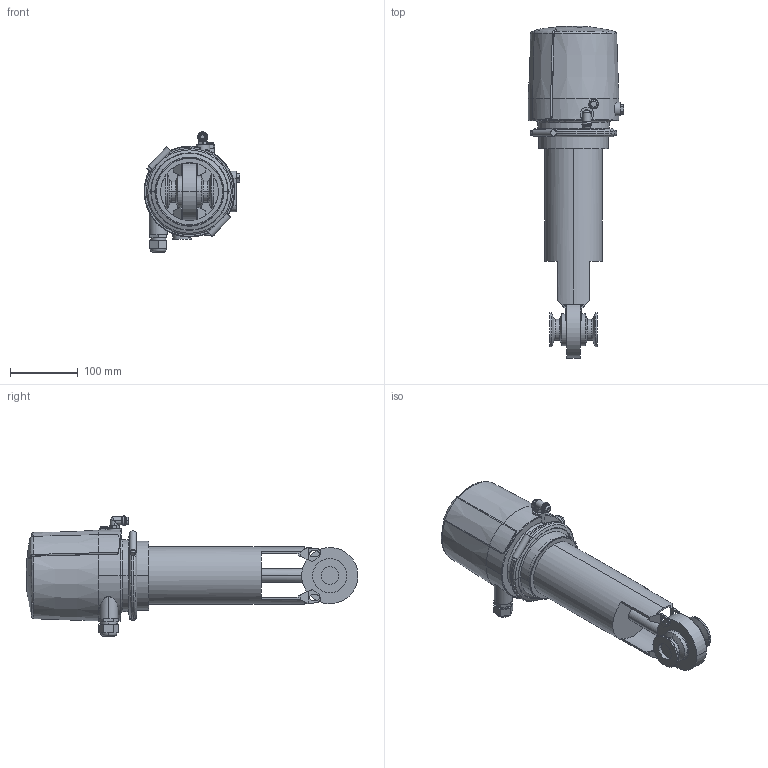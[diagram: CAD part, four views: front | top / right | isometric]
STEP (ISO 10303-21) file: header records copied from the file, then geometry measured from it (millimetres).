
FILE_DESCRIPTION(('Creo Elements/Direct Modeling STEP Export'),'2;1');
FILE_NAME('SV1-25-FZ-CU41-12CL.stp','2012-09-10T15:14:00',(''),(''),'Creo Elements/Direct Modeling STEP processor for AP214 (Solid Model)','Creo Elements/Direct Modeling 17.0D 15-Jul-2011 (C) Parametric Technology GmbH','');
FILE_SCHEMA(('AUTOMOTIVE_DESIGN { 1 0 10303 214 1 1 1 1 }'));
Length unit declared in the file: millimetre
Products named in the file (3): SV1-25-Antrieb-12CL; CU41-mit-T-Adapter; SV1-25-FZ-CU41-12CL.stp
Assembly tree (2 placements, depth 2):
  SV1-25-FZ-CU41-12CL.stp
    CU41-mit-T-Adapter
    SV1-25-Antrieb-12CL
Bounding box: 141.4 x 489.61 x 177.6 mm (x, y, z)
Volume: 3272567.6 mm3; surface area: 246802.2 mm2
Topology: 2 solids, 8 shells, 410 faces, 1059 edges, 672 vertices
Faces by surface type: plane 178, cylinder 140, torus 53, cone 24, bspline 10, sphere 5
Entity records: 19922 total; most frequent: CARTESIAN_POINT 10171, ORIENTED_EDGE 2130, DIRECTION 1764, EDGE_CURVE 1057, VERTEX_POINT 672, AXIS2_PLACEMENT_3D 663, EDGE_LOOP 453, VECTOR 438
